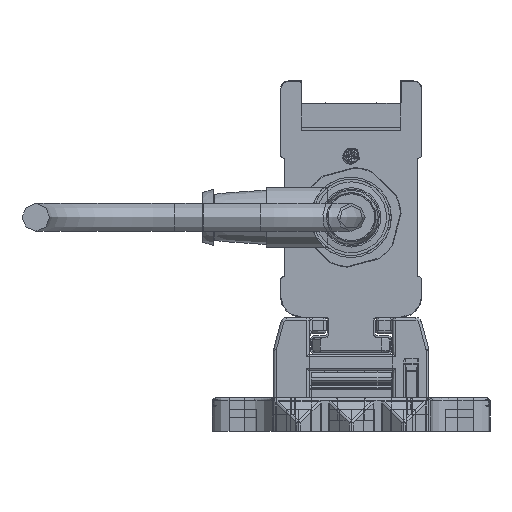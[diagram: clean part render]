
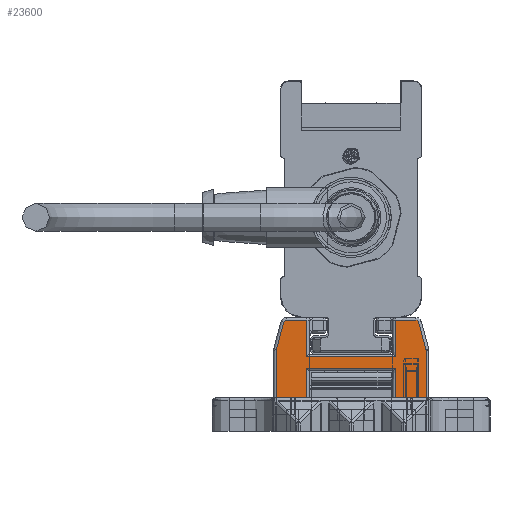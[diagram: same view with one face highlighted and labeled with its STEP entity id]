
A CAD part, left-side view. The second image highlights one B-rep face of the part: STEP entity #23600.
In plain terms, the highlighted planar face has unit normal (-1, 0, 0).
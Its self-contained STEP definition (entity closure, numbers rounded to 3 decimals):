
#23600=ADVANCED_FACE('', (#23610), #23620, .T.);
#189050=AXIS2_PLACEMENT_3D('Ax2Pl3d', #189060, #189070, #189080);
#189290=AXIS2_PLACEMENT_3D('Ax2Pl3d', #189300, #189310, #189320);
#194170=AXIS2_PLACEMENT_3D('Ax2Pl3d', #194180, #194190, #194200);
#199250=AXIS2_PLACEMENT_3D('Ax2Pl3d', #199260, #199270, #199280);
#208930=AXIS2_PLACEMENT_3D('Ax2Pl3d', #208940, #208950, #208960);
#844600=CARTESIAN_POINT('', (-747.669,-6486.345,
331.37));
#189060=CARTESIAN_POINT('HicPkt', (-747.669,-6485.379,
331.111));
#844610=CARTESIAN_POINT('', (-747.669,-6486.379,331.111)
);
#844620=CARTESIAN_POINT('', (-747.669,-6485.037,
336.255));
#844640=CARTESIAN_POINT('', (-747.669,-6485.037,
336.255));
#844670=CARTESIAN_POINT('', (-747.669,-6484.554,
336.625));
#189300=CARTESIAN_POINT('HicPkt', (-747.669,-6484.554,
336.125));
#844890=CARTESIAN_POINT('', (-747.669,-6486.379,322.625)
);
#844900=CARTESIAN_POINT('', (-747.669,-6480.881,322.625)
);
#844910=CARTESIAN_POINT('', (-747.669,-6480.881,322.625)
);
#844990=CARTESIAN_POINT('', (-747.669,-6464.881,322.625)
);
#845000=CARTESIAN_POINT('', (-747.669,-6459.383,322.625)
);
#845010=CARTESIAN_POINT('', (-747.669,-6459.383,322.625)
);
#194180=CARTESIAN_POINT('HicPkt', (-747.669,-6461.209,
336.125));
#847480=CARTESIAN_POINT('', (-747.669,-6460.726,
336.255));
#847490=CARTESIAN_POINT('', (-747.669,-6461.209,
336.625));
#847500=CARTESIAN_POINT('', (-747.669,-6480.881,
330.025));
#847510=CARTESIAN_POINT('', (-747.669,-6464.881,
330.025));
#847520=CARTESIAN_POINT('', (-747.669,-6480.881,
330.025));
#847680=CARTESIAN_POINT('', (-747.669,-6480.881,
328.005));
#847690=CARTESIAN_POINT('', (-747.669,-6464.881,
328.005));
#847700=CARTESIAN_POINT('', (-747.669,-6464.881,
328.005));
#847710=CARTESIAN_POINT('', (-747.669,-6480.881,
328.005));
#847730=CARTESIAN_POINT('', (-747.669,-6464.881,322.625)
);
#847740=CARTESIAN_POINT('', (-747.669,-6464.881,
330.025));
#847750=CARTESIAN_POINT('', (-747.669,-6464.881,
336.625));
#848600=CARTESIAN_POINT('', (-747.669,-6464.881,
336.625));
#848610=CARTESIAN_POINT('', (-747.669,-6460.726,
336.255));
#848620=CARTESIAN_POINT('', (-747.669,-6459.417,
331.37));
#848810=CARTESIAN_POINT('', (-747.669,-6459.383,331.111)
);
#848820=CARTESIAN_POINT('', (-747.669,-6459.383,331.111)
);
#199260=CARTESIAN_POINT('HicPkt', (-747.669,-6460.383,
331.111));
#849630=CARTESIAN_POINT('', (-747.669,-6486.379,331.111)
);
#208940=CARTESIAN_POINT('HicPkt', (-747.669,-6484.554,
336.625));
#851430=CARTESIAN_POINT('', (-747.669,-6480.881,
336.625));
#851440=CARTESIAN_POINT('', (-747.669,-6480.881,
336.625));
#851450=CARTESIAN_POINT('', (-747.669,-6480.881,
336.625));
#981330=CIRCLE('Circle', #189050, 1.);
#981370=CIRCLE('Circle', #189290, 0.5);
#981950=CIRCLE('Circle', #194170, 0.5);
#982480=CIRCLE('Circle', #199250, 1.);
#189070=DIRECTION('Axis', (-1.,0.,
0.));
#189080=DIRECTION('RefDirection', (0.,
0.,-1.));
#1367870=DIRECTION('', (0.,0.259,
0.966));
#189310=DIRECTION('Axis', (-1.,0.,
0.));
#189320=DIRECTION('RefDirection', (0.,
0.,-1.));
#1367980=DIRECTION('', (0.,1.,0.));
#1368020=DIRECTION('', (0.,1.,0.));
#194190=DIRECTION('Axis', (1.,0.,
0.));
#194200=DIRECTION('RefDirection', (0.,
0.,-1.));
#1369210=DIRECTION('', (0.,-1.,0.));
#1369310=DIRECTION('', (0.,1.,0.));
#1369320=DIRECTION('', (0.,0.,1.));
#1369340=DIRECTION('', (0.,0.,-1.));
#1369350=DIRECTION('', (0.,0.,-1.));
#1369780=DIRECTION('', (0.,-1.,0.))
;
#1369790=DIRECTION('', (0.,-0.259,0.966));
#1369880=DIRECTION('', (0.,0.,1.));
#199270=DIRECTION('Axis', (1.,0.,
0.));
#199280=DIRECTION('RefDirection', (0.,
0.,-1.));
#1370250=DIRECTION('', (0.,0.,1.));
#208950=DIRECTION('Axis', (-1.,0.,
0.));
#208960=DIRECTION('RefDirection', (0.,
0.,-1.));
#1371090=DIRECTION('', (0.,1.,0.));
#1371100=DIRECTION('', (0.,0.,1.));
#1456860=EDGE_CURVE('', #1456870, #1456850, #981330, .T.);
#1456920=EDGE_CURVE('', #1456850, #1456900, #1456930, .T.);
#1456990=EDGE_CURVE('', #1456900, #1456980, #981370, .T.);
#1457440=EDGE_CURVE('', #1457430, #1457450, #1457460, .T.);
#1457600=EDGE_CURVE('', #1457590, #1457610, #1457620, .T.);
#1461960=EDGE_CURVE('', #1461970, #1461980, #981950, .T.);
#1462010=EDGE_CURVE('', #1462020, #1462030, #1462040, .T.);
#1462380=EDGE_CURVE('', #1462360, #1462390, #1462400, .T.);
#1462430=EDGE_CURVE('', #1457450, #1462360, #1462440, .T.);
#1462470=EDGE_CURVE('', #1462390, #1457590, #1462480, .T.);
#1462490=EDGE_CURVE('', #1462500, #1462020, #1462510, .T.);
#1464330=EDGE_CURVE('', #1461980, #1462500, #1464340, .T.);
#1464400=EDGE_CURVE('', #1464410, #1461970, #1464420, .T.);
#1464840=EDGE_CURVE('', #1457610, #1464850, #1464860, .T.);
#1464880=EDGE_CURVE('', #1464850, #1464410, #982480, .T.);
#1466590=EDGE_CURVE('', #1457430, #1456870, #1466600, .T.);
#1470400=EDGE_CURVE('', #1456980, #1470410, #1470420, .T.);
#1470430=EDGE_CURVE('', #1462030, #1470410, #1470440, .T.);
#1750440=EDGE_LOOP('Edge_loop', (#1750450,#1750460,#1750470,#1750480,
#1750490,#1750500,#1750510,#1750520,#1750530,#1750540,#1750550,
#1750560,#1750570,#1750580,#1750590,#1750600,#1750610,#1750620));
#23610=FACE_OUTER_BOUND('Face_outer_bound', #1750440, .T.);
#1456930=LINE('Line', #844640, #2017940);
#1457460=LINE('Line', #844900, #2018050);
#1457620=LINE('Line', #845000, #2018090);
#1462040=LINE('Line', #847500, #2019280);
#1462400=LINE('Line', #847690, #2019380);
#1462440=LINE('Line', #847710, #2019390);
#1462480=LINE('Line', #847730, #2019410);
#1462510=LINE('Line', #847740, #2019420);
#1464340=LINE('Line', #848600, #2019850);
#1464420=LINE('Line', #848610, #2019860);
#1464860=LINE('Line', #848810, #2019950);
#1466600=LINE('Line', #849630, #2020320);
#1470420=LINE('Line', #851430, #2021160);
#1470440=LINE('Line', #851450, #2021170);
#1750450=ORIENTED_EDGE('', *, *, #1470400, .T.);
#1750460=ORIENTED_EDGE('', *, *, #1470430, .F.);
#1750470=ORIENTED_EDGE('', *, *, #1462010, .F.);
#1750480=ORIENTED_EDGE('', *, *, #1462490, .F.);
#1750490=ORIENTED_EDGE('', *, *, #1464330, .F.);
#1750500=ORIENTED_EDGE('', *, *, #1461960, .F.);
#1750510=ORIENTED_EDGE('', *, *, #1464400, .F.);
#1750520=ORIENTED_EDGE('', *, *, #1464880, .F.);
#1750530=ORIENTED_EDGE('', *, *, #1464840, .F.);
#1750540=ORIENTED_EDGE('', *, *, #1457600, .F.);
#1750550=ORIENTED_EDGE('', *, *, #1462470, .F.);
#1750560=ORIENTED_EDGE('', *, *, #1462380, .F.);
#1750570=ORIENTED_EDGE('', *, *, #1462430, .F.);
#1750580=ORIENTED_EDGE('', *, *, #1457440, .F.);
#1750590=ORIENTED_EDGE('', *, *, #1466590, .T.);
#1750600=ORIENTED_EDGE('', *, *, #1456860, .T.);
#1750610=ORIENTED_EDGE('', *, *, #1456920, .T.);
#1750620=ORIENTED_EDGE('', *, *, #1456990, .T.);
#23620=PLANE('Plane', #208930);
#2017940=VECTOR('', #1367870, 5.057);
#2018050=VECTOR('', #1367980, 5.498);
#2018090=VECTOR('', #1368020, 5.498);
#2019280=VECTOR('', #1369210, 16.);
#2019380=VECTOR('', #1369310, 16.);
#2019390=VECTOR('', #1369320, 5.38);
#2019410=VECTOR('', #1369340, 5.38);
#2019420=VECTOR('', #1369350, 6.6);
#2019850=VECTOR('', #1369780, 3.672);
#2019860=VECTOR('', #1369790, 5.057);
#2019950=VECTOR('', #1369880, 8.486);
#2020320=VECTOR('', #1370250, 8.486);
#2021160=VECTOR('', #1371090, 3.672);
#2021170=VECTOR('', #1371100, 6.6);
#1456850=VERTEX_POINT('', #844600);
#1456870=VERTEX_POINT('', #844610);
#1456900=VERTEX_POINT('', #844620);
#1456980=VERTEX_POINT('', #844670);
#1457430=VERTEX_POINT('', #844890);
#1457450=VERTEX_POINT('', #844910);
#1457590=VERTEX_POINT('', #844990);
#1457610=VERTEX_POINT('', #845010);
#1461970=VERTEX_POINT('', #847480);
#1461980=VERTEX_POINT('', #847490);
#1462020=VERTEX_POINT('', #847510);
#1462030=VERTEX_POINT('', #847520);
#1462360=VERTEX_POINT('', #847680);
#1462390=VERTEX_POINT('', #847700);
#1462500=VERTEX_POINT('', #847750);
#1464410=VERTEX_POINT('', #848620);
#1464850=VERTEX_POINT('', #848820);
#1470410=VERTEX_POINT('', #851440);
